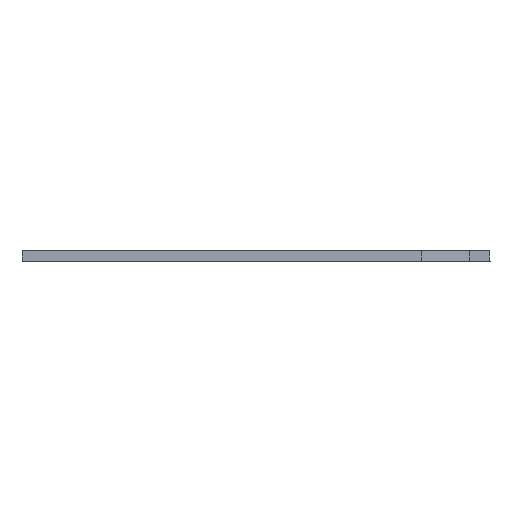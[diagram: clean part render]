
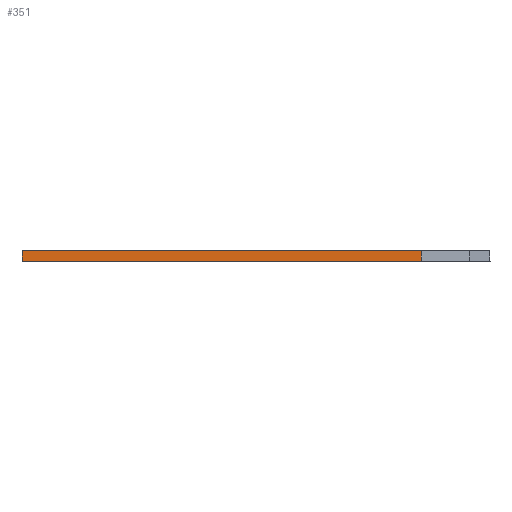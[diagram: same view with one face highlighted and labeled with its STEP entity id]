
A CAD part, left-side view. The second image highlights one B-rep face of the part: STEP entity #351.
In plain terms, the highlighted planar face has unit normal (-1, 0, 0).
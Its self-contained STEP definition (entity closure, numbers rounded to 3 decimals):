
#3 = LINE ( 'NONE', #108, #720 ) ;
#8 = PLANE ( 'NONE',  #871 ) ;
#26 = EDGE_CURVE ( 'NONE', #858, #891, #3, .T. ) ;
#32 = DIRECTION ( 'NONE',  ( 1., 0., 0. ) ) ;
#108 = CARTESIAN_POINT ( 'NONE',  ( -142.5, -70., -1.5 ) ) ;
#127 = CARTESIAN_POINT ( 'NONE',  ( -142.5, 70., 1.5 ) ) ;
#279 = LINE ( 'NONE', #408, #1309 ) ;
#294 = CARTESIAN_POINT ( 'NONE',  ( -142.5, -49.5, 1.5 ) ) ;
#337 = LINE ( 'NONE', #675, #452 ) ;
#351 = ADVANCED_FACE ( 'NONE', ( #365 ), #8, .F. ) ;
#365 = FACE_OUTER_BOUND ( 'NONE', #1379, .T. ) ;
#366 = EDGE_CURVE ( 'NONE', #1442, #858, #968, .T. ) ;
#408 = CARTESIAN_POINT ( 'NONE',  ( -142.5, -70., 1.5 ) ) ;
#452 = VECTOR ( 'NONE', #560, 1000. ) ;
#473 = EDGE_CURVE ( 'NONE', #1442, #991, #279, .T. ) ;
#483 = DIRECTION ( 'NONE',  ( 0., 0., -1. ) ) ;
#494 = CARTESIAN_POINT ( 'NONE',  ( -142.5, -49.5, -1.5 ) ) ;
#560 = DIRECTION ( 'NONE',  ( 0., 0., 1. ) ) ;
#587 = CARTESIAN_POINT ( 'NONE',  ( -142.5, 70., -1.5 ) ) ;
#675 = CARTESIAN_POINT ( 'NONE',  ( -142.5, -49.5, 1.5 ) ) ;
#719 = CARTESIAN_POINT ( 'NONE',  ( -142.5, -70., 1.5 ) ) ;
#720 = VECTOR ( 'NONE', #1049, 1000. ) ;
#729 = EDGE_CURVE ( 'NONE', #891, #991, #337, .T. ) ;
#858 = VERTEX_POINT ( 'NONE', #587 ) ;
#871 = AXIS2_PLACEMENT_3D ( 'NONE', #719, #32, #1054 ) ;
#891 = VERTEX_POINT ( 'NONE', #494 ) ;
#912 = ORIENTED_EDGE ( 'NONE', *, *, #366, .T. ) ;
#929 = ORIENTED_EDGE ( 'NONE', *, *, #473, .F. ) ;
#968 = LINE ( 'NONE', #127, #1509 ) ;
#991 = VERTEX_POINT ( 'NONE', #294 ) ;
#1049 = DIRECTION ( 'NONE',  ( 0., -1., 0. ) ) ;
#1054 = DIRECTION ( 'NONE',  ( 0., 0., -1. ) ) ;
#1116 = DIRECTION ( 'NONE',  ( 0., -1., 0. ) ) ;
#1212 = ORIENTED_EDGE ( 'NONE', *, *, #26, .T. ) ;
#1220 = CARTESIAN_POINT ( 'NONE',  ( -142.5, 70., 1.5 ) ) ;
#1309 = VECTOR ( 'NONE', #1116, 1000. ) ;
#1369 = ORIENTED_EDGE ( 'NONE', *, *, #729, .T. ) ;
#1379 = EDGE_LOOP ( 'NONE', ( #1212, #1369, #929, #912 ) ) ;
#1442 = VERTEX_POINT ( 'NONE', #1220 ) ;
#1509 = VECTOR ( 'NONE', #483, 1000. ) ;
